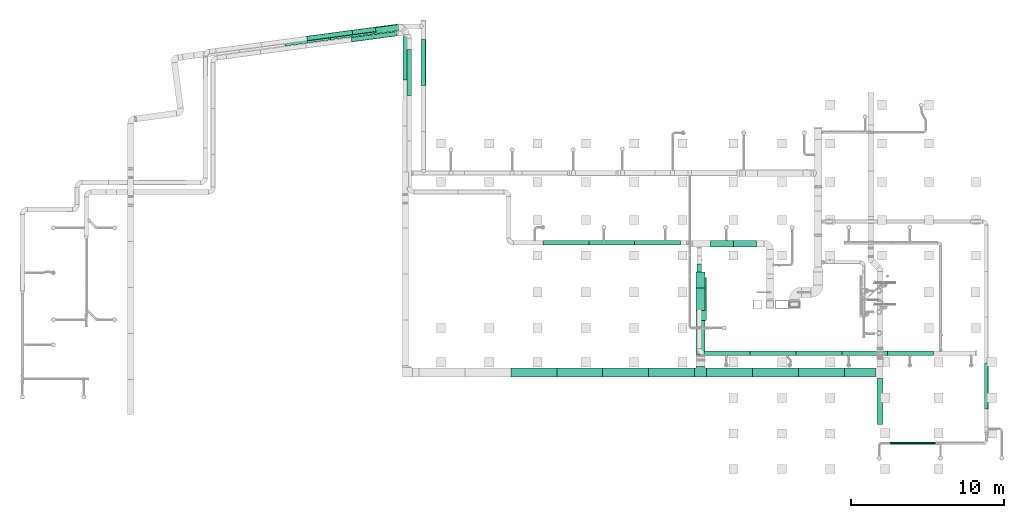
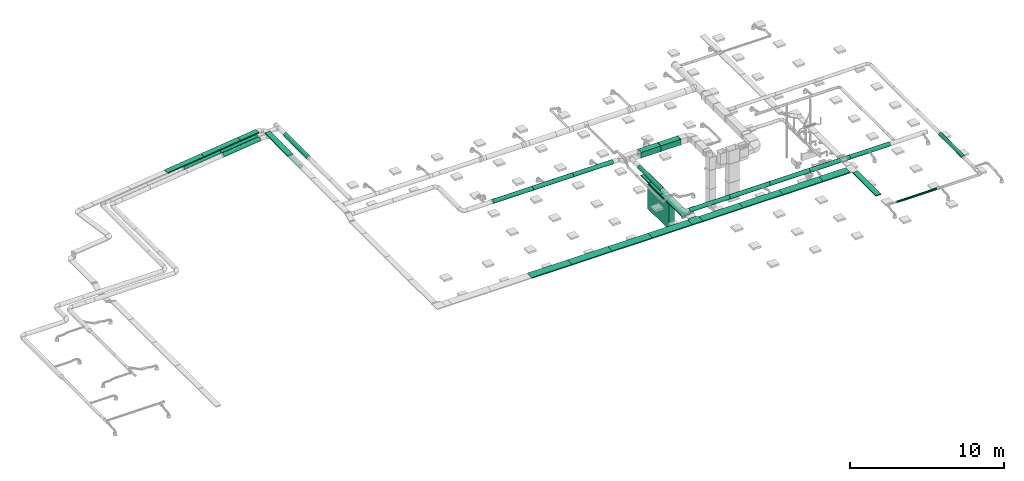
# One storey, part 2 of 119: 18 distribution elements, 18 flow segments.
"""IFC2X3 building model written with IfcOpenShell, lengths in metres."""

from ifc_helpers import new_model, si_unit, direction, frame, frame_2d, origin, place, context, subcontext, project, spatial, rectangle, extrude, open_shell, surface_model, source, transform, mapped, element, save


model = new_model("IFC2X3")

# Units and contexts
model_context = context("Model", 3, precision=1e-05, world=origin(), true_north=direction((-0.4480736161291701, 0.8939966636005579)))
body_context = subcontext(model_context, "Body", "Model", "MODEL_VIEW")
ifc_project = project(units=[si_unit("LENGTHUNIT", "METRE"), si_unit("AREAUNIT", "SQUARE_METRE"), si_unit("VOLUMEUNIT", "CUBIC_METRE"), si_unit("PLANEANGLEUNIT", "RADIAN"), si_unit("THERMODYNAMICTEMPERATUREUNIT", "KELVIN"), si_unit("MASSUNIT", "GRAM", prefix="KILO"), si_unit("TIMEUNIT", "SECOND")], contexts=[model_context])

# Site, building, storey
site_placement = place(None, origin())
site = spatial("IfcSite", under=ifc_project, at=site_placement, Name="Site 1", CompositionType="ELEMENT")
building_placement = place(site_placement, origin())
building = spatial("IfcBuilding", under=site, at=building_placement, Name="Undefined", CompositionType="ELEMENT")
storey_placement = place(building_placement, frame((0.0, 0.0, 5.4)))
storey = spatial("IfcBuildingStorey", under=building, at=storey_placement, Name="R+1", CompositionType="ELEMENT", Elevation=5.4)

# Flow segments
shared_shape_1 = source(origin(), body_context, "Body", "SurfaceModel", [
    surface_model("IfcFaceBasedSurfaceModel", [(0.0, 0.04111575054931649, 0.0), (0.0, 0.0, 0.0), (3.0, 0.0, 0.0), (3.0, 0.04111575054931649, 0.0), (0.0, -0.03971476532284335, -0.010641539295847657), (3.0, -0.03971476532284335, -0.010641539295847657), (0.0, -0.0753220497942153, -0.0311994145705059), (3.0, -0.0753220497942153, -0.0311994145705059), (0.0, -0.10439527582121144, -0.060272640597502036), (3.0, -0.10439527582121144, -0.060272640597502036), (0.0, -0.12495315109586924, -0.09587992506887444), (3.0, -0.12495315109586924, -0.09587992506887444), (0.0, -0.13559469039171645, -0.13559469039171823), (3.0, -0.13559469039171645, -0.13559469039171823), (0.0, -0.135594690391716, -0.17671044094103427), (3.0, -0.135594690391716, -0.17671044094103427), (0.0, -0.1249531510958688, -0.21642520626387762), (3.0, -0.1249531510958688, -0.21642520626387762), (0.0, -0.10439527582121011, -0.2520324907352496), (3.0, -0.10439527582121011, -0.2520324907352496), (0.0, -0.07532204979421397, -0.2811057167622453), (3.0, -0.07532204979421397, -0.2811057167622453), (0.0, -0.039714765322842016, -0.3016635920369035), (3.0, -0.039714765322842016, -0.3016635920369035), (0.0, 1.776356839e-15, -0.3123051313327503), (3.0, 1.776356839e-15, -0.3123051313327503), (0.0, 0.041115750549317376, -0.31230513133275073), (3.0, 0.041115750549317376, -0.31230513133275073), (0.0, 0.08083051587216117, -0.30166359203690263), (3.0, 0.08083051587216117, -0.30166359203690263), (0.0, 0.11643780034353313, -0.28110571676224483), (3.0, 0.11643780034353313, -0.28110571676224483), (0.0, 0.14551102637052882, -0.25203249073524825), (3.0, 0.14551102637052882, -0.25203249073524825), (0.0, 0.16606890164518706, -0.2164252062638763), (3.0, 0.16606890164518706, -0.2164252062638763), (0.0, 0.17671044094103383, -0.1767104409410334), (3.0, 0.17671044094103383, -0.1767104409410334), (0.0, 0.17671044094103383, -0.1355946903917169), (3.0, 0.17671044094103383, -0.1355946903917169), (0.0, 0.16606890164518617, -0.09587992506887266), (3.0, 0.16606890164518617, -0.09587992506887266), (0.0, 0.14551102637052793, -0.06027264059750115), (3.0, 0.14551102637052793, -0.06027264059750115), (0.0, 0.1164378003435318, -0.031199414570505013), (3.0, 0.1164378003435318, -0.031199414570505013), (0.0, 0.08083051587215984, -0.010641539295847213), (3.0, 0.08083051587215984, -0.010641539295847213)], [open_shell([[[0, 1, 2, 3]], [[1, 4, 5, 2]], [[4, 6, 7, 5]], [[6, 8, 9, 7]], [[8, 10, 11, 9]], [[10, 12, 13, 11]], [[12, 14, 15, 13]], [[14, 16, 17, 15]], [[16, 18, 19, 17]], [[18, 20, 21, 19]], [[20, 22, 23, 21]], [[22, 24, 25, 23]], [[24, 26, 27, 25]], [[26, 28, 29, 27]], [[28, 30, 31, 29]], [[30, 32, 33, 31]], [[32, 34, 35, 33]], [[34, 36, 37, 35]], [[36, 38, 39, 37]], [[38, 40, 41, 39]], [[40, 42, 43, 41]], [[42, 44, 45, 43]], [[44, 46, 47, 45]], [[46, 0, 3, 47]]])]),
])
flow_segment_1_placement = place(storey_placement, origin())
element("IfcFlowSegment", 1, at=flow_segment_1_placement, inside=storey, Name="Tube", ObjectType="Tube", context=body_context, shape_type="MappedRepresentation", body=[
    mapped(shared_shape_1, transform((26.818328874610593, 30.13560564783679, 2.902133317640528), x_axis=(-0.9912155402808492, -0.13225639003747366, 0.0), y_axis=(0.13112491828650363, -0.9827355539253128, 0.13052619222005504), z_axis=(-0.017262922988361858, 0.12937959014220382, 0.99144486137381))),
])
flow_segment_2_placement = place(storey_placement, origin())
element("IfcFlowSegment", 2, at=flow_segment_2_placement, inside=storey, Name="Tube", ObjectType="Tube", context=body_context, shape_type="MappedRepresentation", body=[
    mapped(shared_shape_1, transform((23.844682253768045, 29.73883647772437, 2.902133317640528), x_axis=(-0.9912155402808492, -0.13225639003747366, 0.0), y_axis=(0.13112491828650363, -0.9827355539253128, 0.13052619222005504), z_axis=(-0.017262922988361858, 0.12937959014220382, 0.99144486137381))),
])
flow_segment_3_placement = place(storey_placement, origin())
element("IfcFlowSegment", 3, at=flow_segment_3_placement, inside=storey, Name="Tube", ObjectType="Tube", context=body_context, shape_type="MappedRepresentation", body=[
    mapped(shared_shape_1, transform((28.544597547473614, 26.232500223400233, 2.902133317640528), x_axis=(0.0, 1.0, 0.0), y_axis=(-0.9914448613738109, 0.0, 0.1305261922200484), z_axis=(0.1305261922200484, 0.0, 0.9914448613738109))),
])
flow_segment_4_placement = place(storey_placement, origin())
element("IfcFlowSegment", 4, at=flow_segment_4_placement, inside=storey, Name="Tube", ObjectType="Tube", context=body_context, shape_type="MappedRepresentation", body=[
    mapped(shared_shape_1, transform((46.48423392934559, 14.577674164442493, 2.9271333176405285), x_axis=(0.0, -1.0, 0.0), y_axis=(0.9914448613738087, 0.0, 0.13052619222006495), z_axis=(-0.13052619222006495, 0.0, 0.9914448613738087))),
])
flow_segment_5_placement = place(storey_placement, origin())
element("IfcFlowSegment", 5, at=flow_segment_5_placement, inside=storey, Name="Tube", ObjectType="Tube", context=body_context, shape_type="MappedRepresentation", body=[
    mapped(shared_shape_1, transform((46.83999792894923, 8.684235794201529, 2.9271333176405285), x_axis=(1.0, 0.0, 0.0), y_axis=(0.0, 0.9914448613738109, 0.1305261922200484), z_axis=(0.0, -0.1305261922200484, 0.9914448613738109))),
])
flow_segment_6_placement = place(storey_placement, origin())
element("IfcFlowSegment", 6, at=flow_segment_6_placement, inside=storey, Name="Tube", ObjectType="Tube", context=body_context, shape_type="MappedRepresentation", body=[
    mapped(shared_shape_1, transform((49.83999792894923, 8.684235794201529, 2.9271333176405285), x_axis=(1.0, 0.0, 0.0), y_axis=(0.0, 0.9914448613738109, 0.1305261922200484), z_axis=(0.0, -0.1305261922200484, 0.9914448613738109))),
])
flow_segment_7_placement = place(storey_placement, origin())
element("IfcFlowSegment", 7, at=flow_segment_7_placement, inside=storey, Name="Tube", ObjectType="Tube", context=body_context, shape_type="MappedRepresentation", body=[
    mapped(shared_shape_1, transform((52.83999792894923, 8.684235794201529, 2.9271333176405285), x_axis=(1.0, 0.0, 0.0), y_axis=(0.0, 0.9914448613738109, 0.1305261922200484), z_axis=(0.0, -0.1305261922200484, 0.9914448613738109))),
])
flow_segment_8_placement = place(storey_placement, origin())
element("IfcFlowSegment", 8, at=flow_segment_8_placement, inside=storey, Name="Tube", ObjectType="Tube", context=body_context, shape_type="MappedRepresentation", body=[
    mapped(shared_shape_1, transform((55.83999792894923, 8.684235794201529, 2.9271333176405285), x_axis=(1.0, 0.0, 0.0), y_axis=(0.0, 0.9914448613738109, 0.1305261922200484), z_axis=(0.0, -0.1305261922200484, 0.9914448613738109))),
])
flow_segment_9_placement = place(storey_placement, origin())
element("IfcFlowSegment", 9, at=flow_segment_9_placement, inside=storey, Name="Tube", ObjectType="Tube", context=body_context, shape_type="MappedRepresentation", body=[
    mapped(shared_shape_1, transform((58.83999792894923, 8.684235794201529, 2.9271333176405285), x_axis=(1.0, 0.0, 0.0), y_axis=(0.0, 0.9914448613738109, 0.1305261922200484), z_axis=(0.0, -0.1305261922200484, 0.9914448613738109))),
])
flow_segment_10_placement = place(storey_placement, origin())
element("IfcFlowSegment", 10, at=flow_segment_10_placement, inside=storey, Name="Tube", ObjectType="Tube", context=body_context, shape_type="MappedRepresentation", body=[
    mapped(shared_shape_1, transform((45.30654878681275, 15.993058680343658, 2.9271333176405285), x_axis=(-1.0, 0.0, 0.0), y_axis=(7.266545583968e-12, -0.9914448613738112, 0.13052619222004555), z_axis=(0.0, 0.13052619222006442, 0.9914448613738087))),
])
flow_segment_11_placement = place(storey_placement, origin())
element("IfcFlowSegment", 11, at=flow_segment_11_placement, inside=storey, Name="Tube", ObjectType="Tube", context=body_context, shape_type="MappedRepresentation", body=[
    mapped(shared_shape_1, transform((42.30654878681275, 15.993058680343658, 2.9271333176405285), x_axis=(-1.0, 0.0, 0.0), y_axis=(7.266545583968e-12, -0.9914448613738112, 0.13052619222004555), z_axis=(0.0, 0.13052619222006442, 0.9914448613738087))),
])
flow_segment_12_placement = place(storey_placement, origin())
element("IfcFlowSegment", 12, at=flow_segment_12_placement, inside=storey, Name="Tube", ObjectType="Tube", context=body_context, shape_type="MappedRepresentation", body=[
    mapped(shared_shape_1, transform((39.30654878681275, 15.993058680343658, 2.9271333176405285), x_axis=(-1.0, 0.0, 0.0), y_axis=(7.266545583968e-12, -0.9914448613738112, 0.13052619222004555), z_axis=(0.0, 0.13052619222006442, 0.9914448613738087))),
])
flow_segment_13_placement = place(storey_placement, origin())
element("IfcFlowSegment", 13, at=flow_segment_13_placement, inside=storey, Name="Tube", ObjectType="Tube", context=body_context, shape_type="MappedRepresentation", body=[
    mapped(shared_shape_1, transform((27.60605237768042, 25.591630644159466, 2.9271333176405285), x_axis=(0.0, 1.0, 0.0), y_axis=(-0.9914448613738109, 0.0, 0.1305261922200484), z_axis=(0.1305261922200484, 0.0, 0.9914448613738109))),
])
flow_segment_14_placement = place(storey_placement, origin())
element("IfcFlowSegment", 14, at=flow_segment_14_placement, inside=storey, Name="Tube", ObjectType="Tube", context=body_context, shape_type="MappedRepresentation", body=[
    mapped(shared_shape_1, transform((26.76128467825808, 29.664702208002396, 2.9271333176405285), x_axis=(-0.9909831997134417, -0.13398618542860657, 0.0), y_axis=(0.13283991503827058, -0.9825052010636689, 0.13052619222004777), z_axis=(-0.017488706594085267, 0.12934926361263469, 0.991444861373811))),
])
shared_shape_2 = source(origin(), body_context, "Body", "SurfaceModel", [
    surface_model("IfcFaceBasedSurfaceModel", [(0.0, 0.020884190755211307, 0.0), (0.0, 0.0, 0.0), (3.0, 0.0, 0.0), (3.0, 0.020884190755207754, -4.4408921e-16), (0.0, -0.020172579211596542, -0.005405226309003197), (3.0, -0.020172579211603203, -0.005405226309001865), (0.0, -0.03825881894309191, -0.015847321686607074), (3.0, -0.03825881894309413, -0.015847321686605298), (0.0, -0.05302617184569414, -0.0306146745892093), (3.0, -0.053026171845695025, -0.030614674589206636), (0.0, -0.06346826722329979, -0.04870091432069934), (3.0, -0.06346826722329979, -0.04870091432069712), (0.0, -0.06887349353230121, -0.06887349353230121), (3.0, -0.0688734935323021, -0.06887349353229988), (0.0, -0.06887349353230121, -0.08975768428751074), (3.0, -0.0688734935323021, -0.08975768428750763), (0.0, -0.06346826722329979, -0.10993026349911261), (3.0, -0.06346826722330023, -0.10993026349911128), (0.0, -0.05302617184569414, -0.12801650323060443), (3.0, -0.0530261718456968, -0.12801650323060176), (0.0, -0.038258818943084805, -0.14278385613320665), (3.0, -0.03825881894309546, -0.1427838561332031), (0.0, -0.020172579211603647, -0.15322595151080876), (3.0, -0.020172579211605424, -0.15322595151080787), (0.0, 7.105427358e-15, -0.15863117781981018), (3.0, -2.664535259e-15, -0.15863117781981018), (0.0, 0.020884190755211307, -0.15863117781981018), (3.0, 0.020884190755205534, -0.15863117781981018), (0.0, 0.04105676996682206, -0.15322595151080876), (3.0, 0.04105676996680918, -0.1532259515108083), (0.0, 0.05914300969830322, -0.1427838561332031), (3.0, 0.059143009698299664, -0.14278385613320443), (0.0, 0.07391036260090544, -0.12801650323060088), (3.0, 0.073910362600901, -0.12801650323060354), (0.0, 0.0843524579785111, -0.10993026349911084), (3.0, 0.08435245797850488, -0.10993026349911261), (0.0, 0.08975768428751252, -0.08975768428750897), (3.0, 0.08975768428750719, -0.08975768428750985), (0.0, 0.08975768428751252, -0.06887349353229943), (3.0, 0.08975768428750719, -0.0688734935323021), (0.0, 0.0843524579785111, -0.048700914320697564), (3.0, 0.08435245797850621, -0.048700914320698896), (0.0, 0.07391036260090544, -0.030614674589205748), (3.0, 0.07391036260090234, -0.03061467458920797), (0.0, 0.05914300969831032, -0.015847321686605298), (3.0, 0.05914300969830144, -0.015847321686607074), (0.0, 0.04105676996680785, -0.005405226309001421), (3.0, 0.041056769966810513, -0.005405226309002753)], [open_shell([[[0, 1, 2, 3]], [[1, 4, 5, 2]], [[4, 6, 7, 5]], [[6, 8, 9, 7]], [[8, 10, 11, 9]], [[10, 12, 13, 11]], [[12, 14, 15, 13]], [[14, 16, 17, 15]], [[16, 18, 19, 17]], [[18, 20, 21, 19]], [[20, 22, 23, 21]], [[22, 24, 25, 23]], [[24, 26, 27, 25]], [[26, 28, 29, 27]], [[28, 30, 31, 29]], [[30, 32, 33, 31]], [[32, 34, 35, 33]], [[34, 36, 37, 35]], [[36, 38, 39, 37]], [[38, 40, 41, 39]], [[40, 42, 43, 41]], [[42, 44, 45, 43]], [[44, 46, 47, 45]], [[46, 0, 3, 47]]])]),
])
flow_segment_15_placement = place(storey_placement, origin())
element("IfcFlowSegment", 15, at=flow_segment_15_placement, inside=storey, Name="Tube", ObjectType="Tube", context=body_context, shape_type="MappedRepresentation", body=[
    mapped(shared_shape_2, transform((61.98000156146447, 2.8720032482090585, 2.8272740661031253), x_axis=(-1.0, 0.0, 0.0), y_axis=(7.266545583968e-12, -0.9914448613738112, 0.13052619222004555), z_axis=(0.0, 0.13052619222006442, 0.9914448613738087))),
])
shared_shape_3 = source(origin(), body_context, "Body", "SurfaceModel", [
    surface_model("IfcFaceBasedSurfaceModel", [(0.0, 0.03263154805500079, 0.0), (0.0, 0.0, 0.0), (3.0, 0.0, 0.0), (3.0, 0.03263154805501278, -4.4408921e-16), (0.0, -0.031519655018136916, -0.008445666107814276), (3.0, -0.03151965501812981, -0.008445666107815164), (0.0, -0.05977940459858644, -0.024761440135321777), (3.0, -0.05977940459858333, -0.02476144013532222), (0.0, -0.08285339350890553, -0.047835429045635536), (3.0, -0.08285339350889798, -0.04783542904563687), (0.0, -0.09916916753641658, -0.07609517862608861), (3.0, -0.09916916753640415, -0.07609517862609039), (0.0, -0.1076148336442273, -0.10761483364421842), (3.0, -0.10761483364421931, -0.10761483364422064), (0.0, -0.1076148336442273, -0.14024638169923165), (3.0, -0.10761483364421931, -0.14024638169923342), (0.0, -0.09916916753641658, -0.17176603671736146), (3.0, -0.09916916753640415, -0.17176603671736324), (0.0, -0.08285339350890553, -0.2000257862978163), (3.0, -0.08285339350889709, -0.20002578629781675), (0.0, -0.059779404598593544, -0.22309977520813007), (3.0, -0.059779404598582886, -0.22309977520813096), (0.0, -0.03151965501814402, -0.23941554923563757), (3.0, -0.03151965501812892, -0.23941554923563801), (0.0, -1.4210854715e-14, -0.24786121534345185), (3.0, 8.8817842e-16, -0.24786121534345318), (0.0, 0.03263154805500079, -0.24786121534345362), (3.0, 0.032631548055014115, -0.24786121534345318), (0.0, 0.0641512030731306, -0.23941554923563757), (3.0, 0.06415120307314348, -0.23941554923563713), (0.0, 0.09241095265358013, -0.22309977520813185), (3.0, 0.092410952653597, -0.22309977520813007), (0.0, 0.11548494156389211, -0.2000257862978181), (3.0, 0.11548494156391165, -0.20002578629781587), (0.0, 0.13180071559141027, -0.171766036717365), (3.0, 0.13180071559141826, -0.1717660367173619), (0.0, 0.140246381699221, -0.1402463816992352), (3.0, 0.14024638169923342, -0.14024638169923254), (0.0, 0.140246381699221, -0.10761483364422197), (3.0, 0.14024638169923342, -0.10761483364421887), (0.0, 0.13180071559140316, -0.07609517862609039), (3.0, 0.13180071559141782, -0.07609517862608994), (0.0, 0.11548494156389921, -0.04783542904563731), (3.0, 0.11548494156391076, -0.047835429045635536), (0.0, 0.09241095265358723, -0.024761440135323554), (3.0, 0.09241095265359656, -0.024761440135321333), (0.0, 0.06415120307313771, -0.008445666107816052), (3.0, 0.06415120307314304, -0.008445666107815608)], [open_shell([[[0, 1, 2, 3]], [[1, 4, 5, 2]], [[4, 6, 7, 5]], [[6, 8, 9, 7]], [[8, 10, 11, 9]], [[10, 12, 13, 11]], [[12, 14, 15, 13]], [[14, 16, 17, 15]], [[16, 18, 19, 17]], [[18, 20, 21, 19]], [[20, 22, 23, 21]], [[22, 24, 25, 23]], [[24, 26, 27, 25]], [[26, 28, 29, 27]], [[28, 30, 31, 29]], [[30, 32, 33, 31]], [[32, 34, 35, 33]], [[34, 36, 37, 35]], [[36, 38, 39, 37]], [[38, 40, 41, 39]], [[40, 42, 43, 41]], [[42, 44, 45, 43]], [[44, 46, 47, 45]], [[46, 0, 3, 47]]])]),
])
flow_segment_16_placement = place(storey_placement, origin())
element("IfcFlowSegment", 16, at=flow_segment_16_placement, inside=storey, Name="Tube", ObjectType="Tube", context=body_context, shape_type="MappedRepresentation", body=[
    mapped(shared_shape_3, transform((65.25765520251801, 8.089283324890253, 2.8707407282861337), x_axis=(0.0, -1.0, 0.0), y_axis=(0.9914448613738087, 0.0, 0.13052619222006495), z_axis=(-0.13052619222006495, 0.0, 0.9914448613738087))),
])
shared_shape_4 = source(origin(), body_context, "Body", "SurfaceModel", [
    surface_model("IfcFaceBasedSurfaceModel", [(0.0, 0.0, 0.0), (0.5299999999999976, 4.4408921e-16, 0.0), (0.48999999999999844, 0.03999999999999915, 0.0), (0.04000000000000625, 0.040000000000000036, 0.0), (0.5299999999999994, 0.5300000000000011, 0.0), (0.48999999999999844, 0.490000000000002, 0.0), (0.0, 0.5300000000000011, 0.0), (0.03999999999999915, 0.490000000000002, 0.0), (0.0, 0.0, -1.4939999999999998), (0.5299999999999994, 0.0, -1.494), (0.48999999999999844, 0.03999999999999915, -1.494), (0.03999999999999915, 0.040000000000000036, -1.4939999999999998), (0.5299999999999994, 0.5300000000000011, -1.494), (0.48999999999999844, 0.490000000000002, -1.494), (0.0, 0.5300000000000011, -1.494), (0.03999999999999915, 0.490000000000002, -1.494), (0.03999999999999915, 0.490000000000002, 0.0030000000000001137), (0.03999999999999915, 0.490000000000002, -1.4969999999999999), (0.03999999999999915, 0.040000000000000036, -1.4969999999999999), (0.04000000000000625, 0.040000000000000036, 0.0030000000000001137), (0.48999999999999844, 0.03999999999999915, -1.4969999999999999), (0.48999999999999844, 0.03999999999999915, 0.0030000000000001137), (0.48999999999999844, 0.490000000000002, -1.4969999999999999), (0.48999999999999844, 0.490000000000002, 0.0030000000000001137)], [open_shell([[[0, 1, 2, 3]], [[1, 4, 5, 2]], [[6, 4, 5, 7]], [[0, 6, 7, 3]], [[8, 9, 10, 11]], [[9, 12, 13, 10]], [[14, 12, 13, 15]], [[8, 14, 15, 11]], [[16, 17, 18, 19]], [[19, 18, 20, 21]], [[21, 20, 22, 23]], [[23, 22, 17, 16]]])]),
])
flow_segment_17_placement = place(storey_placement, origin())
element("IfcFlowSegment", 17, at=flow_segment_17_placement, inside=storey, Name="Gaine de ventilation", ObjectType="Gaine de ventilation", context=body_context, shape_type="MappedRepresentation", body=[
    mapped(shared_shape_4, transform((48.74699415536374, 16.149794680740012, 3.04), x_axis=(0.0, -1.0, 0.0), y_axis=(0.0, 0.0, -1.0), z_axis=(1.0, 0.0, 0.0))),
])
flow_segment_18_placement = place(storey_placement, origin())
element("IfcFlowSegment", 18, at=flow_segment_18_placement, inside=storey, Name="Gaine de ventilation", ObjectType="Gaine de ventilation", context=body_context, shape_type="MappedRepresentation", body=[
    mapped(shared_shape_4, transform((48.75299415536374, 15.61979468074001, 3.04), x_axis=(0.0, 1.0, 0.0), y_axis=(0.0, 0.0, -1.0), z_axis=(-1.0, 0.0, 0.0))),
])

# Distribution elements
shared_shape_5 = source(origin(), body_context, "Body", "SurfaceModel", [
    surface_model("IfcFaceBasedSurfaceModel", [(0.0, 0.049999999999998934, 0.0), (0.0, 0.0, 0.0), (0.08000000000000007, 0.0, 5.82867088e-16), (0.08000000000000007, 0.04999999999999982, 0.0), (0.08000000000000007, -0.04999999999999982, 0.04999999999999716), (0.08000000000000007, -0.04829629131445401, 0.03705904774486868), (0.0, -0.04829629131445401, 0.03705904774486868), (0.0, -0.04999999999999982, 0.04999999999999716), (0.08000000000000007, -0.0433012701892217, 0.02499999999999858), (0.0, -0.0433012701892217, 0.02499999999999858), (0.08000000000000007, -0.035355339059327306, 0.014644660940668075), (0.0, -0.035355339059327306, 0.014644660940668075), (0.08000000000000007, -0.025000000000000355, 0.006698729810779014), (0.0, -0.025000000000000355, 0.006698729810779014), (0.08000000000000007, -0.012940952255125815, 0.001703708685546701), (0.0, -0.012940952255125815, 0.001703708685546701), (0.0, -0.04999999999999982, 0.10000000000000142), (0.08000000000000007, -0.04999999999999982, 0.10000000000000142), (0.0, -0.6500000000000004, 0.10000000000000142), (0.0, -0.6500000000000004, 0.04999999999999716), (0.08000000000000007, -0.6500000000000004, 0.04999999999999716), (0.08000000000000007, -0.6500000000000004, 0.10000000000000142), (0.08000000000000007, -0.7000000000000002, 0.0), (0.08000000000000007, -0.6870590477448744, 0.001703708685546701), (0.0, -0.6870590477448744, 0.001703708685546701), (0.0, -0.7000000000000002, 0.0), (0.08000000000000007, -0.6749999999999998, 0.006698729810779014), (0.0, -0.6749999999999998, 0.006698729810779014), (0.08000000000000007, -0.664644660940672, 0.014644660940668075), (0.0, -0.664644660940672, 0.014644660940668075), (0.08000000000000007, -0.6566987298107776, 0.02499999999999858), (0.0, -0.6566987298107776, 0.02499999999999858), (0.08000000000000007, -0.6517037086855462, 0.03705904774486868), (0.0, -0.6517037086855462, 0.03705904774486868), (0.0, -0.75, 0.0), (0.08000000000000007, -0.75, 0.0), (0.0, -0.75, -0.6000000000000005), (0.0, 0.05000000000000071, -0.6000000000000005), (0.08000000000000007, 0.05000000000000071, -0.6000000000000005), (0.08000000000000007, -0.75, -0.6000000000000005)], [open_shell([[[0, 1, 2, 3]], [[4, 5, 6, 7]], [[5, 8, 9, 6]], [[8, 10, 11, 9]], [[10, 12, 13, 11]], [[12, 14, 15, 13]], [[14, 2, 1, 15]], [[7, 16, 17, 4]], [[18, 19, 20, 21]], [[22, 23, 24, 25]], [[23, 26, 27, 24]], [[26, 28, 29, 27]], [[28, 30, 31, 29]], [[30, 32, 33, 31]], [[32, 20, 19, 33]], [[25, 34, 35, 22]], [[36, 37, 38, 39]], [[39, 38, 2]], [[39, 2, 14]], [[39, 14, 12]], [[39, 12, 10]], [[39, 10, 8]], [[39, 8, 5]], [[39, 5, 4]], [[39, 4, 32]], [[39, 32, 30]], [[39, 30, 28]], [[39, 28, 26]], [[39, 26, 23]], [[39, 23, 22]], [[39, 22, 35]], [[4, 17, 21]], [[4, 21, 20]], [[4, 20, 32]], [[2, 38, 3]], [[1, 37, 36]], [[15, 1, 36]], [[13, 15, 36]], [[11, 13, 36]], [[9, 11, 36]], [[6, 9, 36]], [[7, 6, 36]], [[33, 7, 36]], [[31, 33, 36]], [[29, 31, 36]], [[27, 29, 36]], [[24, 27, 36]], [[25, 24, 36]], [[34, 25, 36]], [[18, 16, 7]], [[19, 18, 7]], [[33, 19, 7]], [[0, 37, 1]]])]),
])
distribution_element_1_placement = place(storey_placement, origin())
element("IfcDistributionElement", 19, at=distribution_element_1_placement, inside=storey, Name="Pièce en té", ObjectType="Pièce en té", context=body_context, shape_type="MappedRepresentation", body=[
    mapped(shared_shape_5, transform((46.261, 7.764, 2.83), x_axis=(0.0, 0.0, -1.0), y_axis=(-1.0, 0.0, 0.0), z_axis=(0.0, 1.0, 0.0))),
])
shared_shape_6 = source(origin(), body_context, "Body", "SurfaceModel", [
    surface_model("IfcFaceBasedSurfaceModel", [(0.0, 0.0, 0.0), (1.4800000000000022, 0.0, 0.0), (1.4800000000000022, 0.08000000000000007, 0.0), (0.0, 0.08000000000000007, 0.0), (1.4800000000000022, 0.0, -0.6000000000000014), (0.0, 0.0, -0.6000000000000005), (0.0, 0.08000000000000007, -0.6000000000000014), (1.4800000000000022, 0.08000000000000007, -0.6000000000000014), (1.1400000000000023, 0.08000000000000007, -0.6000000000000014), (1.1400000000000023, 0.08000000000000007, 0.0), (0.34000000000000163, 0.08000000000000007, 0.0), (0.34000000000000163, 0.08000000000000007, -0.6000000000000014), (1.1400000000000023, 0.08000000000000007, -0.0799999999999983), (0.34000000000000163, 0.08000000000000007, -0.0799999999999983), (1.0400000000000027, 0.52, 0.0), (1.0400000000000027, 0.18000000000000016, 0.0), (1.0400000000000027, 0.18000000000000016, -0.0799999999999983), (1.0400000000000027, 0.52, -0.0799999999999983), (0.4400000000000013, 0.18000000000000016, 0.0), (0.4400000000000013, 0.18000000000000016, -0.0799999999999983), (0.4400000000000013, 0.52, 0.0), (0.4400000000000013, 0.52, -0.0799999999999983)], [open_shell([[[0, 1, 2, 3]], [[4, 5, 6, 7]], [[4, 1, 0]], [[5, 4, 0]], [[2, 7, 8, 9]], [[10, 11, 6, 3]], [[12, 8, 11, 13]], [[14, 15, 16, 17]], [[15, 9, 12, 16]], [[10, 18, 19, 13]], [[18, 20, 21, 19]], [[17, 16, 13]], [[17, 13, 19]], [[17, 19, 21]], [[13, 16, 12]], [[10, 15, 14]], [[18, 10, 14]], [[20, 18, 14]], [[9, 15, 10]]])]),
])
distribution_element_2_placement = place(storey_placement, origin())
element("IfcDistributionElement", 20, at=distribution_element_2_placement, inside=storey, Name="Entonnoir, axial", ObjectType="Entonnoir, axial", context=body_context, shape_type="MappedRepresentation", body=[
    mapped(shared_shape_6, transform((46.911, 13.0065945, 2.5300000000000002), x_axis=(0.0, -1.0, 0.0), y_axis=(0.0, 0.0, -1.0), z_axis=(1.0, 0.0, 0.0))),
])
distribution_element_3_placement = place(storey_placement, origin())
element("IfcDistributionElement", 21, at=distribution_element_3_placement, inside=storey, Name="HAK", ObjectType="HAK", context=body_context, shape_type="SweptSolid", body=[
    extrude(rectangle(XDim=0.3999999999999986, YDim=2.0, at=frame_2d((3.552713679e-15, 0.0), x_axis=(-1.0, 0.0))), frame((46.81100000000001, 10.8665945, 1.0), z_axis=(0.0, 1.0, 0.0), x_axis=(1.0, 0.0, 0.0)), (0.0, 0.0, 1.0), 2.8000000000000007),
])
distribution_element_4_placement = place(storey_placement, origin())
element("IfcDistributionElement", 22, at=distribution_element_4_placement, inside=storey, Name="Chemin(s) de câbles", ObjectType="Chemin(s) de câbles", context=body_context, shape_type="SweptSolid", body=[
    extrude(rectangle(XDim=0.6, YDim=0.08, at=frame_2d((3.552713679e-15, 0.0), x_axis=(-1.0, 0.0))), frame((46.611000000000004, 14.039, 2.49), z_axis=(0.0, -1.0, 0.0), x_axis=(1.0, 0.0, 0.0)), (0.0, 0.0, 1.0), 1.0324055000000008),
])
distribution_element_5_placement = place(storey_placement, origin())
element("IfcDistributionElement", 23, at=distribution_element_5_placement, inside=storey, Name="Chemin(s) de câbles", ObjectType="Chemin(s) de câbles", context=body_context, shape_type="SweptSolid", body=[
    extrude(rectangle(XDim=0.6, YDim=0.08, at=frame_2d((3.552713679e-15, 0.0), x_axis=(-1.0, 0.0))), frame((46.611000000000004, 11.5265945, 2.49), z_axis=(0.0, -1.0, 0.0), x_axis=(1.0, 0.0, 0.0)), (0.0, 0.0, 1.0), 2.8903419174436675),
])
distribution_element_6_placement = place(storey_placement, origin())
element("IfcDistributionElement", 24, at=distribution_element_6_placement, inside=storey, Name="Chemin(s) de câbles", ObjectType="Chemin(s) de câbles", context=body_context, shape_type="SweptSolid", body=[
    extrude(rectangle(XDim=0.6, YDim=0.08, at=frame_2d((3.552713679e-15, 0.0), x_axis=(-1.0, 0.0))), frame((47.011, 7.464, 2.79), z_axis=(1.0, 0.0, 0.0), x_axis=(0.0, 1.0, 0.0)), (0.0, 0.0, 1.0), 3.0),
])
distribution_element_7_placement = place(storey_placement, origin())
element("IfcDistributionElement", 25, at=distribution_element_7_placement, inside=storey, Name="Chemin(s) de câbles", ObjectType="Chemin(s) de câbles", context=body_context, shape_type="SweptSolid", body=[
    extrude(rectangle(XDim=0.6, YDim=0.08, at=frame_2d((3.552713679e-15, 0.0), x_axis=(-1.0, 0.0))), frame((50.011, 7.464, 2.79), z_axis=(1.0, 0.0, 0.0), x_axis=(0.0, 1.0, 0.0)), (0.0, 0.0, 1.0), 3.0),
])
distribution_element_8_placement = place(storey_placement, origin())
element("IfcDistributionElement", 26, at=distribution_element_8_placement, inside=storey, Name="Chemin(s) de câbles", ObjectType="Chemin(s) de câbles", context=body_context, shape_type="SweptSolid", body=[
    extrude(rectangle(XDim=0.6, YDim=0.08, at=frame_2d((3.552713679e-15, 0.0), x_axis=(-1.0, 0.0))), frame((53.011, 7.464, 2.79), z_axis=(1.0, 0.0, 0.0), x_axis=(0.0, 1.0, 0.0)), (0.0, 0.0, 1.0), 3.0),
])
distribution_element_9_placement = place(storey_placement, origin())
element("IfcDistributionElement", 27, at=distribution_element_9_placement, inside=storey, Name="Chemin(s) de câbles", ObjectType="Chemin(s) de câbles", context=body_context, shape_type="SweptSolid", body=[
    extrude(rectangle(XDim=0.6, YDim=0.08, at=frame_2d((3.552713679e-15, 0.0), x_axis=(-1.0, 0.0))), frame((56.011, 7.464, 2.79), z_axis=(1.0, 0.0, 0.0), x_axis=(0.0, 1.0, 0.0)), (0.0, 0.0, 1.0), 2.0249999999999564),
])
distribution_element_10_placement = place(storey_placement, origin())
element("IfcDistributionElement", 28, at=distribution_element_10_placement, inside=storey, Name="Chemin(s) de câbles", ObjectType="Chemin(s) de câbles", context=body_context, shape_type="SweptSolid", body=[
    extrude(rectangle(XDim=0.4, YDim=0.08, at=frame_2d((3.552713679e-15, 0.0), x_axis=(-1.0, 0.0))), frame((58.335999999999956, 7.064, 2.79), z_axis=(0.0, -1.0, 0.0), x_axis=(1.0, 0.0, 0.0)), (0.0, 0.0, 1.0), 3.0),
])
distribution_element_11_placement = place(storey_placement, origin())
element("IfcDistributionElement", 29, at=distribution_element_11_placement, inside=storey, Name="Chemin(s) de câbles", ObjectType="Chemin(s) de câbles", context=body_context, shape_type="SweptSolid", body=[
    extrude(rectangle(XDim=0.6, YDim=0.08, at=frame_2d((3.552713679e-15, 0.0), x_axis=(-1.0, 0.0))), frame((46.211, 7.464, 2.79), z_axis=(-1.0, 0.0, 0.0), x_axis=(0.0, -1.0, 0.0)), (0.0, 0.0, 1.0), 3.0),
])
distribution_element_12_placement = place(storey_placement, origin())
element("IfcDistributionElement", 30, at=distribution_element_12_placement, inside=storey, Name="Chemin(s) de câbles", ObjectType="Chemin(s) de câbles", context=body_context, shape_type="SweptSolid", body=[
    extrude(rectangle(XDim=0.6, YDim=0.08, at=frame_2d((3.552713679e-15, 0.0), x_axis=(-1.0, 0.0))), frame((43.211, 7.464, 2.79), z_axis=(-1.0, 0.0, 0.0), x_axis=(0.0, -1.0, 0.0)), (0.0, 0.0, 1.0), 3.0),
])
distribution_element_13_placement = place(storey_placement, origin())
element("IfcDistributionElement", 31, at=distribution_element_13_placement, inside=storey, Name="Chemin(s) de câbles", ObjectType="Chemin(s) de câbles", context=body_context, shape_type="SweptSolid", body=[
    extrude(rectangle(XDim=0.6, YDim=0.08, at=frame_2d((3.552713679e-15, 0.0), x_axis=(-1.0, 0.0))), frame((40.211, 7.464, 2.79), z_axis=(-1.0, 0.0, 0.0), x_axis=(0.0, -1.0, 0.0)), (0.0, 0.0, 1.0), 3.0),
])
distribution_element_14_placement = place(storey_placement, origin())
element("IfcDistributionElement", 32, at=distribution_element_14_placement, inside=storey, Name="Chemin(s) de câbles", ObjectType="Chemin(s) de câbles", context=body_context, shape_type="SweptSolid", body=[
    extrude(rectangle(XDim=0.6, YDim=0.08, at=frame_2d((3.552713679e-15, 0.0), x_axis=(-1.0, 0.0))), frame((37.211, 7.464, 2.79), z_axis=(-1.0, 0.0, 0.0), x_axis=(0.0, -1.0, 0.0)), (0.0, 0.0, 1.0), 3.0),
])
distribution_element_15_placement = place(storey_placement, origin())
element("IfcDistributionElement", 33, at=distribution_element_15_placement, inside=storey, Name="Chemin(s) de câbles", ObjectType="Chemin(s) de câbles", context=body_context, shape_type="SweptSolid", body=[
    extrude(rectangle(XDim=0.4, YDim=0.08, at=frame_2d((3.552713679e-15, 0.0), x_axis=(-1.0, 0.0))), frame((19.438443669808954, 29.00610006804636, 3.1249999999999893), z_axis=(0.9908724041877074, 0.13480311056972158, 0.0), x_axis=(0.13480311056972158, -0.9908724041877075, 0.0)), (0.0, 0.0, 1.0), 3.0),
])
distribution_element_16_placement = place(storey_placement, origin())
element("IfcDistributionElement", 34, at=distribution_element_16_placement, inside=storey, Name="Chemin(s) de câbles", ObjectType="Chemin(s) de câbles", context=body_context, shape_type="SweptSolid", body=[
    extrude(rectangle(XDim=0.4, YDim=0.08, at=frame_2d((3.552713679e-15, 0.0), x_axis=(-1.0, 0.0))), frame((22.41106088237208, 29.410509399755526, 3.1249999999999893), z_axis=(0.9908724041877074, 0.13480311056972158, 0.0), x_axis=(0.13480311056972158, -0.9908724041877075, 0.0)), (0.0, 0.0, 1.0), 3.0),
])
distribution_element_17_placement = place(storey_placement, origin())
element("IfcDistributionElement", 35, at=distribution_element_17_placement, inside=storey, Name="Chemin(s) de câbles", ObjectType="Chemin(s) de câbles", context=body_context, shape_type="SweptSolid", body=[
    extrude(rectangle(XDim=0.4, YDim=0.08, at=frame_2d((3.552713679e-15, 0.0), x_axis=(-1.0, 0.0))), frame((25.383678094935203, 29.814918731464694, 3.1249999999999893), z_axis=(0.9908724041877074, 0.13480311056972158, 0.0), x_axis=(0.13480311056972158, -0.9908724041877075, 0.0)), (0.0, 0.0, 1.0), 1.4887549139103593),
])
distribution_element_18_placement = place(storey_placement, origin())
element("IfcDistributionElement", 36, at=distribution_element_18_placement, inside=storey, Name="Chemin(s) de câbles", ObjectType="Chemin(s) de câbles", context=body_context, shape_type="SweptSolid", body=[
    extrude(rectangle(XDim=0.4, YDim=0.08, at=frame_2d((3.552713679e-15, 0.0), x_axis=(-1.0, 0.0))), frame((27.363154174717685, 29.57329653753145, 3.1249999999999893), z_axis=(-0.004411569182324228, -0.9999902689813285, 1.21272862e-16), x_axis=(-0.9999902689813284, 0.004411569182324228, -1.7043789e-17)), (0.0, 0.0, 1.0), 3.0),
])

save(model, "model.ifc")
